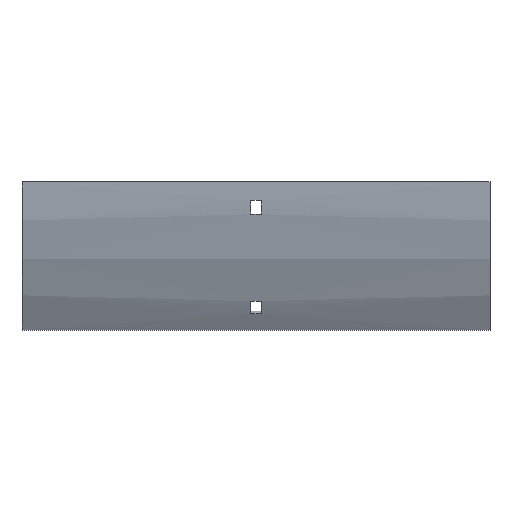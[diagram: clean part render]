
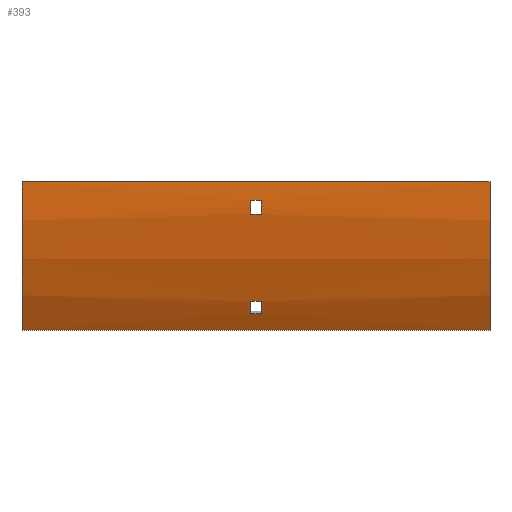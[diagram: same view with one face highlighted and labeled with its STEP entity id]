
A CAD part, front view. The second image highlights one B-rep face of the part: STEP entity #393.
In plain terms, the highlighted cylindrical face has radius 192.5 mm (diameter 385 mm), a partial arc.
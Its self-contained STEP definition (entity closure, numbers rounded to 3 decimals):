
#39 = CIRCLE ( 'NONE', #1431, 192.5 ) ;
#70 = ORIENTED_EDGE ( 'NONE', *, *, #325, .T. ) ;
#80 = CARTESIAN_POINT ( 'NONE',  ( -3.25, -92.126, -12. ) ) ;
#83 = DIRECTION ( 'NONE',  ( 0., 0., -1. ) ) ;
#85 = VECTOR ( 'NONE', #732, 1000. ) ;
#111 = CARTESIAN_POINT ( 'NONE',  ( 152., 100., 0. ) ) ;
#130 = EDGE_CURVE ( 'NONE', #471, #1154, #1498, .T. ) ;
#147 = VERTEX_POINT ( 'NONE', #473 ) ;
#148 = EDGE_CURVE ( 'NONE', #986, #603, #997, .T. ) ;
#154 = CARTESIAN_POINT ( 'NONE',  ( 152., -66.71, -96.25 ) ) ;
#201 = ORIENTED_EDGE ( 'NONE', *, *, #642, .F. ) ;
#239 = CARTESIAN_POINT ( 'NONE',  ( -152., 100., 0. ) ) ;
#246 = EDGE_CURVE ( 'NONE', #295, #1047, #39, .T. ) ;
#295 = VERTEX_POINT ( 'NONE', #646 ) ;
#315 = VECTOR ( 'NONE', #355, 1000. ) ;
#316 = ORIENTED_EDGE ( 'NONE', *, *, #1417, .T. ) ;
#325 = EDGE_CURVE ( 'NONE', #1154, #619, #1489, .T. ) ;
#333 = DIRECTION ( 'NONE',  ( 1., 0., 0. ) ) ;
#334 = VERTEX_POINT ( 'NONE', #640 ) ;
#348 = CARTESIAN_POINT ( 'NONE',  ( 3.25, -76.215, -77.489 ) ) ;
#355 = DIRECTION ( 'NONE',  ( -1., 0., 0. ) ) ;
#358 = EDGE_CURVE ( 'NONE', #603, #1639, #624, .T. ) ;
#369 = DIRECTION ( 'NONE',  ( -1., 0., 0. ) ) ;
#382 = DIRECTION ( 'NONE',  ( 1., 0., 0. ) ) ;
#393 = ADVANCED_FACE ( 'NONE', ( #394, #784, #1303 ), #1046, .T. ) ;
#394 = FACE_OUTER_BOUND ( 'NONE', #423, .T. ) ;
#395 = ORIENTED_EDGE ( 'NONE', *, *, #1561, .F. ) ;
#404 = CARTESIAN_POINT ( 'NONE',  ( -3.25, -72.386, -85.671 ) ) ;
#405 = DIRECTION ( 'NONE',  ( -1., 0., 0. ) ) ;
#416 = DIRECTION ( 'NONE',  ( 1., 0., 0. ) ) ;
#423 = EDGE_LOOP ( 'NONE', ( #1062, #201, #872, #316 ) ) ;
#445 = LINE ( 'NONE', #686, #85 ) ;
#466 = EDGE_CURVE ( 'NONE', #619, #1445, #705, .T. ) ;
#471 = VERTEX_POINT ( 'NONE', #80 ) ;
#473 = CARTESIAN_POINT ( 'NONE',  ( -152., -92.5, 0. ) ) ;
#476 = DIRECTION ( 'NONE',  ( -1., 0., 0. ) ) ;
#543 = AXIS2_PLACEMENT_3D ( 'NONE', #1144, #369, #1555 ) ;
#545 = AXIS2_PLACEMENT_3D ( 'NONE', #1059, #805, #1325 ) ;
#547 = CARTESIAN_POINT ( 'NONE',  ( -3.25, -91.351, -21. ) ) ;
#551 = EDGE_LOOP ( 'NONE', ( #571, #1419, #1516, #395 ) ) ;
#571 = ORIENTED_EDGE ( 'NONE', *, *, #358, .F. ) ;
#579 = DIRECTION ( 'NONE',  ( -1., 0., 0. ) ) ;
#603 = VERTEX_POINT ( 'NONE', #1527 ) ;
#612 = EDGE_CURVE ( 'NONE', #1445, #471, #1118, .T. ) ;
#619 = VERTEX_POINT ( 'NONE', #867 ) ;
#624 = CIRCLE ( 'NONE', #545, 192.5 ) ;
#640 = CARTESIAN_POINT ( 'NONE',  ( 3.25, -72.386, -85.671 ) ) ;
#642 = EDGE_CURVE ( 'NONE', #1047, #950, #1660, .T. ) ;
#646 = CARTESIAN_POINT ( 'NONE',  ( 152., -92.5, 0. ) ) ;
#651 = CARTESIAN_POINT ( 'NONE',  ( 3.25, -92.126, -12. ) ) ;
#663 = CIRCLE ( 'NONE', #841, 192.5 ) ;
#674 = VECTOR ( 'NONE', #476, 1000. ) ;
#686 = CARTESIAN_POINT ( 'NONE',  ( 152., -72.386, -85.671 ) ) ;
#705 = LINE ( 'NONE', #1240, #1231 ) ;
#732 = DIRECTION ( 'NONE',  ( 1., 0., 0. ) ) ;
#784 = FACE_BOUND ( 'NONE', #1472, .T. ) ;
#794 = DIRECTION ( 'NONE',  ( 0., 0., 1. ) ) ;
#796 = CARTESIAN_POINT ( 'NONE',  ( 3.25, 100., 0. ) ) ;
#805 = DIRECTION ( 'NONE',  ( 1., 0., 0. ) ) ;
#811 = AXIS2_PLACEMENT_3D ( 'NONE', #1311, #405, #794 ) ;
#841 = AXIS2_PLACEMENT_3D ( 'NONE', #239, #1396, #83 ) ;
#867 = CARTESIAN_POINT ( 'NONE',  ( 3.25, -91.351, -21. ) ) ;
#872 = ORIENTED_EDGE ( 'NONE', *, *, #246, .F. ) ;
#910 = DIRECTION ( 'NONE',  ( -1., 0., 0. ) ) ;
#949 = ORIENTED_EDGE ( 'NONE', *, *, #612, .T. ) ;
#950 = VERTEX_POINT ( 'NONE', #1012 ) ;
#968 = VECTOR ( 'NONE', #333, 1000. ) ;
#986 = VERTEX_POINT ( 'NONE', #348 ) ;
#992 = ORIENTED_EDGE ( 'NONE', *, *, #466, .T. ) ;
#997 = LINE ( 'NONE', #1675, #315 ) ;
#1012 = CARTESIAN_POINT ( 'NONE',  ( -152., -66.71, -96.25 ) ) ;
#1035 = AXIS2_PLACEMENT_3D ( 'NONE', #796, #416, #1435 ) ;
#1044 = EDGE_CURVE ( 'NONE', #334, #986, #1577, .T. ) ;
#1046 = CYLINDRICAL_SURFACE ( 'NONE', #1546, 192.5 ) ;
#1047 = VERTEX_POINT ( 'NONE', #154 ) ;
#1059 = CARTESIAN_POINT ( 'NONE',  ( -3.25, 100., 0. ) ) ;
#1062 = ORIENTED_EDGE ( 'NONE', *, *, #1073, .T. ) ;
#1073 = EDGE_CURVE ( 'NONE', #147, #950, #663, .T. ) ;
#1079 = DIRECTION ( 'NONE',  ( -1., 0., 0. ) ) ;
#1098 = DIRECTION ( 'NONE',  ( 0., 0., 1. ) ) ;
#1118 = CIRCLE ( 'NONE', #543, 192.5 ) ;
#1144 = CARTESIAN_POINT ( 'NONE',  ( -3.25, 100., 0. ) ) ;
#1154 = VERTEX_POINT ( 'NONE', #651 ) ;
#1162 = CARTESIAN_POINT ( 'NONE',  ( 152., -92.5, 0. ) ) ;
#1223 = CARTESIAN_POINT ( 'NONE',  ( 152., 100., 0. ) ) ;
#1231 = VECTOR ( 'NONE', #1079, 1000. ) ;
#1237 = CARTESIAN_POINT ( 'NONE',  ( 152., -92.126, -12. ) ) ;
#1240 = CARTESIAN_POINT ( 'NONE',  ( 152., -91.351, -21. ) ) ;
#1303 = FACE_BOUND ( 'NONE', #551, .T. ) ;
#1311 = CARTESIAN_POINT ( 'NONE',  ( 3.25, 100., 0. ) ) ;
#1325 = DIRECTION ( 'NONE',  ( 0., 0., -1. ) ) ;
#1372 = ORIENTED_EDGE ( 'NONE', *, *, #130, .T. ) ;
#1396 = DIRECTION ( 'NONE',  ( 1., 0., 0. ) ) ;
#1417 = EDGE_CURVE ( 'NONE', #295, #147, #1564, .T. ) ;
#1419 = ORIENTED_EDGE ( 'NONE', *, *, #148, .F. ) ;
#1431 = AXIS2_PLACEMENT_3D ( 'NONE', #111, #382, #1686 ) ;
#1435 = DIRECTION ( 'NONE',  ( 0., 0., -1. ) ) ;
#1445 = VERTEX_POINT ( 'NONE', #547 ) ;
#1472 = EDGE_LOOP ( 'NONE', ( #992, #949, #1372, #70 ) ) ;
#1489 = CIRCLE ( 'NONE', #1035, 192.5 ) ;
#1498 = LINE ( 'NONE', #1237, #968 ) ;
#1516 = ORIENTED_EDGE ( 'NONE', *, *, #1044, .F. ) ;
#1527 = CARTESIAN_POINT ( 'NONE',  ( -3.25, -76.215, -77.489 ) ) ;
#1534 = CARTESIAN_POINT ( 'NONE',  ( 152., -66.71, -96.25 ) ) ;
#1536 = VECTOR ( 'NONE', #910, 1000. ) ;
#1546 = AXIS2_PLACEMENT_3D ( 'NONE', #1223, #579, #1098 ) ;
#1555 = DIRECTION ( 'NONE',  ( 0., 0., 1. ) ) ;
#1561 = EDGE_CURVE ( 'NONE', #1639, #334, #445, .T. ) ;
#1564 = LINE ( 'NONE', #1162, #1536 ) ;
#1577 = CIRCLE ( 'NONE', #811, 192.5 ) ;
#1639 = VERTEX_POINT ( 'NONE', #404 ) ;
#1660 = LINE ( 'NONE', #1534, #674 ) ;
#1675 = CARTESIAN_POINT ( 'NONE',  ( 152., -76.215, -77.489 ) ) ;
#1686 = DIRECTION ( 'NONE',  ( 0., 0., -1. ) ) ;
